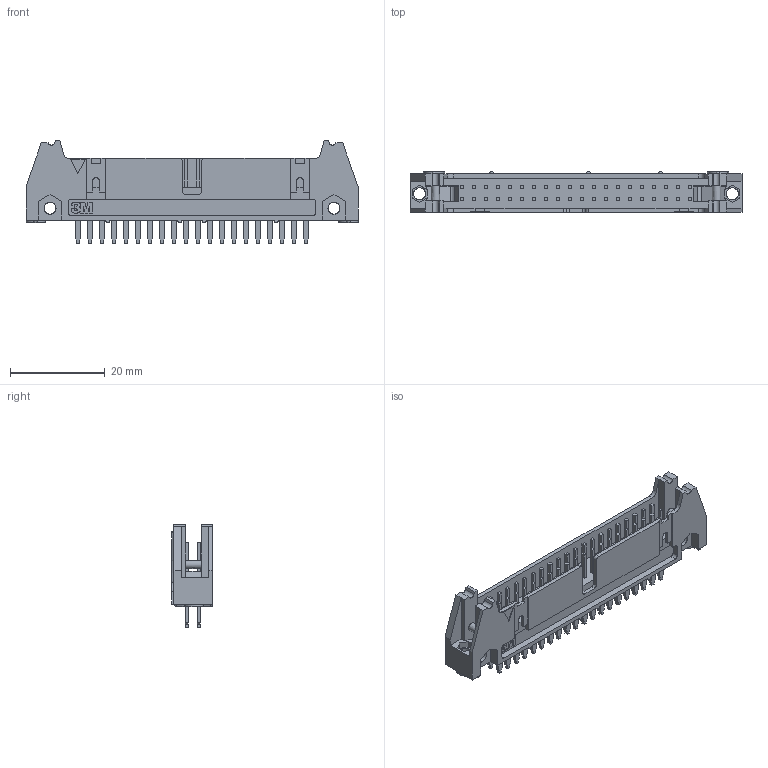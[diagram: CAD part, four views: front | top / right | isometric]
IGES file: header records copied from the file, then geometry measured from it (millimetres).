
Global section: file name: Q:\us297865\11491-web-modle-4-wall-header\78-5110-6054-9.igs; native system: NX V7.5; preprocessor: SIEMENS PLM Software NX 7.5; date: 20120912.111859; units: inch
Bounding box: 70.23 x 8.64 x 21.84 mm (x, y, z)
Surface area: 6248.6 mm2 (no closed solid volume)
Topology: 0 solids, 0 shells, 990 faces, 5538 edges, 5521 vertices
Faces by surface type: bspline 990
